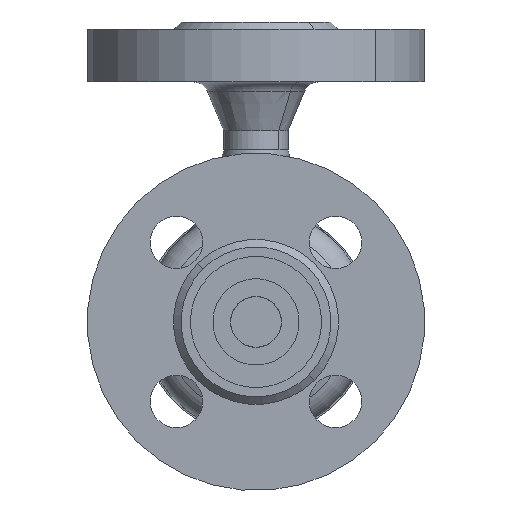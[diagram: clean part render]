
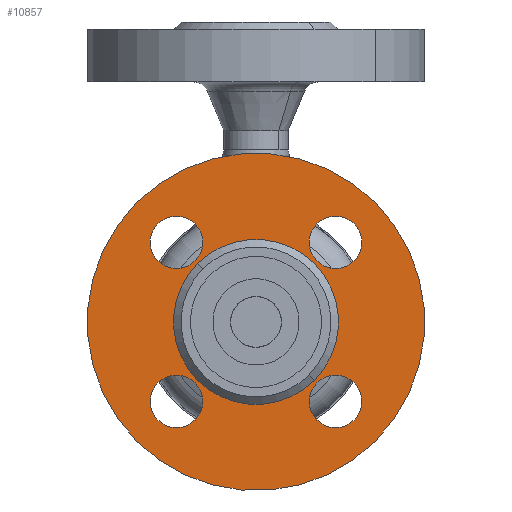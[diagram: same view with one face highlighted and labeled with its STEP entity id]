
A CAD part, front view. The second image highlights one B-rep face of the part: STEP entity #10857.
In plain terms, the highlighted planar face has unit normal (0, -1, 0).
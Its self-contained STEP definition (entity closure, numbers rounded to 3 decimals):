
#585 = EDGE_LOOP ( 'NONE', ( #5491, #10376 ) ) ;
#809 = ORIENTED_EDGE ( 'NONE', *, *, #12050, .T. ) ;
#1827 = EDGE_CURVE ( 'NONE', #5184, #6754, #3933, .T. ) ;
#2356 = EDGE_CURVE ( 'NONE', #9701, #12379, #6041, .T. ) ;
#2423 = EDGE_CURVE ( 'NONE', #14854, #10410, #7335, .T. ) ;
#2509 = ORIENTED_EDGE ( 'NONE', *, *, #2356, .T. ) ;
#2974 = CIRCLE ( 'NONE', #2975, 7. ) ;
#2975 = AXIS2_PLACEMENT_3D ( 'NONE', #2976, #2977, #2978 ) ;
#2976 = CARTESIAN_POINT ( 'NONE',  ( 30., 2., 0. ) ) ;
#2977 = DIRECTION ( 'NONE',  ( 0., 1., 0. ) ) ;
#2978 = DIRECTION ( 'NONE',  ( -1., 0., 0. ) ) ;
#2986 = CARTESIAN_POINT ( 'NONE',  ( 7., 2., -30. ) ) ;
#2996 = EDGE_LOOP ( 'NONE', ( #2509, #809 ) ) ;
#3034 = CARTESIAN_POINT ( 'NONE',  ( -7., 2., 30. ) ) ;
#3167 = VERTEX_POINT ( 'NONE', #8082 ) ;
#3196 = CIRCLE ( 'NONE', #3197, 7. ) ;
#3197 = AXIS2_PLACEMENT_3D ( 'NONE', #3198, #3199, #3200 ) ;
#3198 = CARTESIAN_POINT ( 'NONE',  ( -30., 2., 0. ) ) ;
#3199 = DIRECTION ( 'NONE',  ( 0., 1., 0. ) ) ;
#3200 = DIRECTION ( 'NONE',  ( -1., 0., 0. ) ) ;
#3201 = CARTESIAN_POINT ( 'NONE',  ( 7., 2., 30. ) ) ;
#3218 = CIRCLE ( 'NONE', #3219, 7. ) ;
#3219 = AXIS2_PLACEMENT_3D ( 'NONE', #3221, #3222, #3223 ) ;
#3221 = CARTESIAN_POINT ( 'NONE',  ( 30., 2., 0. ) ) ;
#3222 = DIRECTION ( 'NONE',  ( 0., 1., 0. ) ) ;
#3223 = DIRECTION ( 'NONE',  ( -1., 0., 0. ) ) ;
#3224 = CARTESIAN_POINT ( 'NONE',  ( 45., 2., 0. ) ) ;
#3446 = EDGE_CURVE ( 'NONE', #10014, #10219, #8397, .T. ) ;
#3525 = CARTESIAN_POINT ( 'NONE',  ( -45., 2., 0. ) ) ;
#3659 = ORIENTED_EDGE ( 'NONE', *, *, #2423, .T. ) ;
#3699 = CARTESIAN_POINT ( 'NONE',  ( -22., 2., 0. ) ) ;
#3802 = CIRCLE ( 'NONE', #3803, 7. ) ;
#3803 = AXIS2_PLACEMENT_3D ( 'NONE', #3804, #3805, #3806 ) ;
#3804 = CARTESIAN_POINT ( 'NONE',  ( -30., 2., 0. ) ) ;
#3805 = DIRECTION ( 'NONE',  ( 0., 1., 0. ) ) ;
#3806 = DIRECTION ( 'NONE',  ( -1., 0., 0. ) ) ;
#3933 = CIRCLE ( 'NONE', #3934, 7. ) ;
#3934 = AXIS2_PLACEMENT_3D ( 'NONE', #3937, #3938, #3939 ) ;
#3937 = CARTESIAN_POINT ( 'NONE',  ( 0., 2., -30. ) ) ;
#3938 = DIRECTION ( 'NONE',  ( 0., 1., 0. ) ) ;
#3939 = DIRECTION ( 'NONE',  ( -1., 0., 0. ) ) ;
#4021 = VERTEX_POINT ( 'NONE', #11101 ) ;
#4284 = CARTESIAN_POINT ( 'NONE',  ( -23., 2., 0. ) ) ;
#4308 = FACE_BOUND ( 'NONE', #10634, .T. ) ;
#4309 = FACE_BOUND ( 'NONE', #6771, .T. ) ;
#4310 = FACE_BOUND ( 'NONE', #2996, .T. ) ;
#4311 = FACE_BOUND ( 'NONE', #585, .T. ) ;
#4312 = FACE_OUTER_BOUND ( 'NONE', #10185, .T. ) ;
#4313 = FACE_BOUND ( 'NONE', #7117, .T. ) ;
#4314 = PLANE ( 'NONE',  #4315 ) ;
#4315 = AXIS2_PLACEMENT_3D ( 'NONE', #4316, #4317, #4318 ) ;
#4316 = CARTESIAN_POINT ( 'NONE',  ( 22., 2., 0. ) ) ;
#4317 = DIRECTION ( 'NONE',  ( 0., 1., 0. ) ) ;
#4318 = DIRECTION ( 'NONE',  ( -1., 0., 0. ) ) ;
#5147 = EDGE_CURVE ( 'NONE', #4021, #3167, #2974, .T. ) ;
#5184 = VERTEX_POINT ( 'NONE', #2986 ) ;
#5491 = ORIENTED_EDGE ( 'NONE', *, *, #5147, .T. ) ;
#5580 = EDGE_CURVE ( 'NONE', #3167, #4021, #3218, .T. ) ;
#5853 = CIRCLE ( 'NONE', #5854, 7. ) ;
#5854 = AXIS2_PLACEMENT_3D ( 'NONE', #5855, #5856, #5857 ) ;
#5855 = CARTESIAN_POINT ( 'NONE',  ( 0., 2., -30. ) ) ;
#5856 = DIRECTION ( 'NONE',  ( 0., 1., 0. ) ) ;
#5857 = DIRECTION ( 'NONE',  ( -1., 0., 0. ) ) ;
#5866 = CARTESIAN_POINT ( 'NONE',  ( -7., 2., -30. ) ) ;
#6041 = CIRCLE ( 'NONE', #6042, 7. ) ;
#6042 = AXIS2_PLACEMENT_3D ( 'NONE', #6043, #6044, #6045 ) ;
#6043 = CARTESIAN_POINT ( 'NONE',  ( 0., 2., 30. ) ) ;
#6044 = DIRECTION ( 'NONE',  ( 0., 1., 0. ) ) ;
#6045 = DIRECTION ( 'NONE',  ( -1., 0., 0. ) ) ;
#6100 = EDGE_CURVE ( 'NONE', #13211, #12003, #3802, .T. ) ;
#6735 = EDGE_CURVE ( 'NONE', #6754, #5184, #5853, .T. ) ;
#6754 = VERTEX_POINT ( 'NONE', #5866 ) ;
#6771 = EDGE_LOOP ( 'NONE', ( #12674, #12148 ) ) ;
#6888 = ORIENTED_EDGE ( 'NONE', *, *, #6735, .T. ) ;
#6994 = ORIENTED_EDGE ( 'NONE', *, *, #1827, .T. ) ;
#7029 = EDGE_CURVE ( 'NONE', #10219, #10014, #7463, .T. ) ;
#7117 = EDGE_LOOP ( 'NONE', ( #15591, #3659 ) ) ;
#7335 = CIRCLE ( 'NONE', #7336, 22. ) ;
#7336 = AXIS2_PLACEMENT_3D ( 'NONE', #7337, #7338, #7339 ) ;
#7337 = CARTESIAN_POINT ( 'NONE',  ( 0., 2., 0. ) ) ;
#7338 = DIRECTION ( 'NONE',  ( 0., 1., 0. ) ) ;
#7339 = DIRECTION ( 'NONE',  ( -1., 0., 0. ) ) ;
#7463 = CIRCLE ( 'NONE', #7464, 45. ) ;
#7464 = AXIS2_PLACEMENT_3D ( 'NONE', #7465, #7466, #7467 ) ;
#7465 = CARTESIAN_POINT ( 'NONE',  ( 0., 2., 0. ) ) ;
#7466 = DIRECTION ( 'NONE',  ( 0., 1., 0. ) ) ;
#7467 = DIRECTION ( 'NONE',  ( -1., 0., 0. ) ) ;
#8082 = CARTESIAN_POINT ( 'NONE',  ( 37., 2., 0. ) ) ;
#8117 = CARTESIAN_POINT ( 'NONE',  ( -37., 2., 0. ) ) ;
#8397 = CIRCLE ( 'NONE', #8398, 45. ) ;
#8398 = AXIS2_PLACEMENT_3D ( 'NONE', #8399, #8400, #8401 ) ;
#8399 = CARTESIAN_POINT ( 'NONE',  ( 0., 2., 0. ) ) ;
#8400 = DIRECTION ( 'NONE',  ( 0., 1., 0. ) ) ;
#8401 = DIRECTION ( 'NONE',  ( -1., 0., 0. ) ) ;
#8524 = CIRCLE ( 'NONE', #8525, 22. ) ;
#8525 = AXIS2_PLACEMENT_3D ( 'NONE', #8526, #8528, #8529 ) ;
#8526 = CARTESIAN_POINT ( 'NONE',  ( 0., 2., 0. ) ) ;
#8528 = DIRECTION ( 'NONE',  ( 0., 1., 0. ) ) ;
#8529 = DIRECTION ( 'NONE',  ( -1., 0., 0. ) ) ;
#8551 = CARTESIAN_POINT ( 'NONE',  ( 22., 2., 0. ) ) ;
#9184 = CIRCLE ( 'NONE', #9185, 7. ) ;
#9185 = AXIS2_PLACEMENT_3D ( 'NONE', #9186, #9187, #9188 ) ;
#9186 = CARTESIAN_POINT ( 'NONE',  ( 0., 2., 30. ) ) ;
#9187 = DIRECTION ( 'NONE',  ( 0., 1., 0. ) ) ;
#9188 = DIRECTION ( 'NONE',  ( -1., 0., 0. ) ) ;
#9701 = VERTEX_POINT ( 'NONE', #3034 ) ;
#9703 = ORIENTED_EDGE ( 'NONE', *, *, #7029, .F. ) ;
#10014 = VERTEX_POINT ( 'NONE', #3224 ) ;
#10185 = EDGE_LOOP ( 'NONE', ( #9703, #12554 ) ) ;
#10219 = VERTEX_POINT ( 'NONE', #3525 ) ;
#10376 = ORIENTED_EDGE ( 'NONE', *, *, #5580, .T. ) ;
#10410 = VERTEX_POINT ( 'NONE', #3699 ) ;
#10634 = EDGE_LOOP ( 'NONE', ( #6888, #6994 ) ) ;
#10857 = ADVANCED_FACE ( 'NONE', ( #4308, #4309, #4310, #4311, #4312, #4313 ), #4314, .F. ) ;
#11101 = CARTESIAN_POINT ( 'NONE',  ( 23., 2., 0. ) ) ;
#12003 = VERTEX_POINT ( 'NONE', #8117 ) ;
#12020 = EDGE_CURVE ( 'NONE', #10410, #14854, #8524, .T. ) ;
#12050 = EDGE_CURVE ( 'NONE', #12379, #9701, #9184, .T. ) ;
#12148 = ORIENTED_EDGE ( 'NONE', *, *, #6100, .T. ) ;
#12362 = EDGE_CURVE ( 'NONE', #12003, #13211, #3196, .T. ) ;
#12379 = VERTEX_POINT ( 'NONE', #3201 ) ;
#12554 = ORIENTED_EDGE ( 'NONE', *, *, #3446, .F. ) ;
#12674 = ORIENTED_EDGE ( 'NONE', *, *, #12362, .T. ) ;
#13211 = VERTEX_POINT ( 'NONE', #4284 ) ;
#14854 = VERTEX_POINT ( 'NONE', #8551 ) ;
#15591 = ORIENTED_EDGE ( 'NONE', *, *, #12020, .T. ) ;
